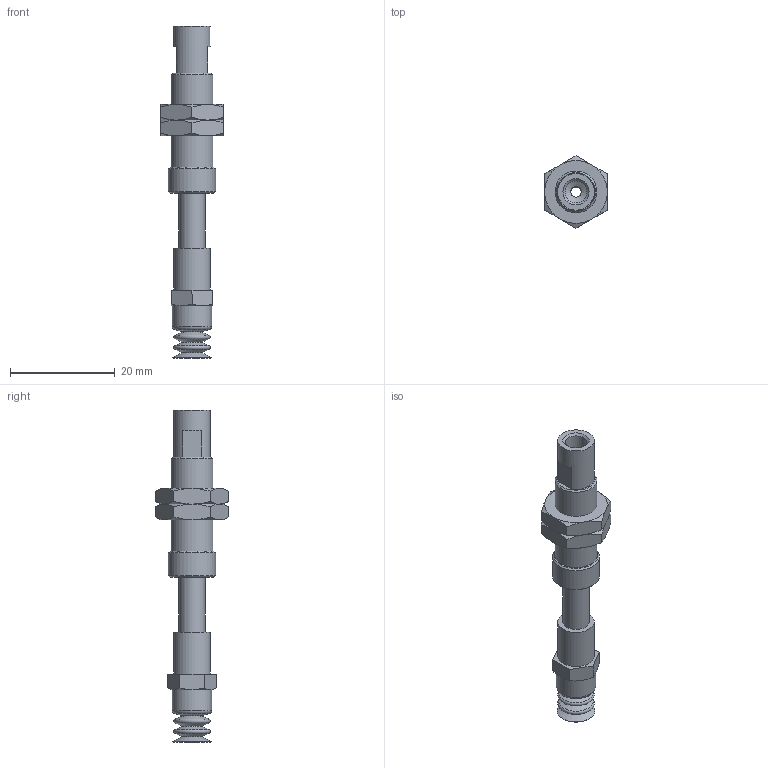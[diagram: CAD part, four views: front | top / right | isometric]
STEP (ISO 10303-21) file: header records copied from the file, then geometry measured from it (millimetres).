
FILE_DESCRIPTION(('STEP AP203'),'1');
FILE_NAME('-PE.stp','2025-04-04T02:16:32',(' '),(' '),'Spatial InterOp 3D',' ',' ');
FILE_SCHEMA(('CONFIG_CONTROL_DESIGN'));
Length unit declared in the file: millimetre
Products named in the file (8): BNABPCTS-7-10-※-PE; ZIG; BODY; NUT; TN-PS-10-M5; Setting screws-TN-PS-10-M5; BPCG-7-※
Assembly tree (7 placements, depth 3):
  BNABPCTS-7-10-※-PE
    ZIG
    BODY
    NUT
    NUT
    TN-PS-10-M5
      Setting screws-TN-PS-10-M5
    BPCG-7-※
Bounding box: 12 x 13.86 x 63.5 mm (x, y, z)
Volume: 2657.5 mm3; surface area: 4009.7 mm2
Topology: 6 solids, 6 shells, 144 faces, 294 edges, 174 vertices
Faces by surface type: plane 58, cone 51, cylinder 23, torus 12
Full cylindrical faces by diameter (mm): 2 x3, 3.9 x1, 4 x4, 4.2 x2, 5 x3, 5.2 x1, 6 x2, 7 x2, 7.25 x2, 7.5 x1, 8 x1, 9 x1
Entity records: 3878 total; most frequent: CARTESIAN_POINT 735, DIRECTION 592, ORIENTED_EDGE 462, AXIS2_PLACEMENT_3D 268, EDGE_CURVE 231, EDGE_LOOP 224, FACE_OUTER_BOUND 179, VERTEX_POINT 167
